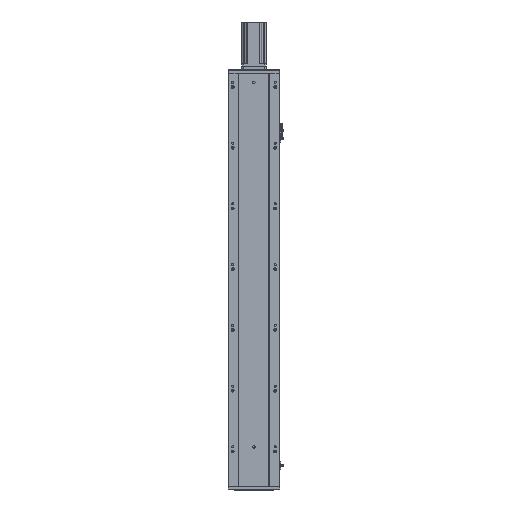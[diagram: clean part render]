
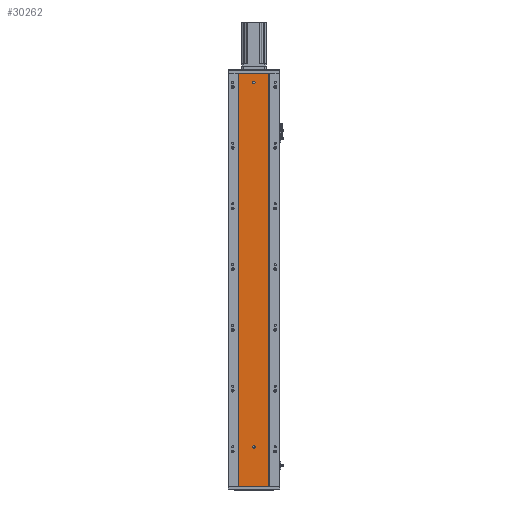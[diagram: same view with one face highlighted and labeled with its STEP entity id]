
A CAD part, front view. The second image highlights one B-rep face of the part: STEP entity #30262.
In plain terms, the highlighted planar face has unit normal (0, -1, 0).
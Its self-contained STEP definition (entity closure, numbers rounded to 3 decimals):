
#1245 = EDGE_CURVE ( 'NONE', #36690, #35395, #17171, .T. ) ;
#1509 = AXIS2_PLACEMENT_3D ( 'NONE', #22015, #16182, #61484 ) ;
#2485 = VECTOR ( 'NONE', #25756, 1000. ) ;
#3011 = FACE_OUTER_BOUND ( 'NONE', #36099, .T. ) ;
#3685 = CARTESIAN_POINT ( 'NONE',  ( 136.47, 79.476, 1334. ) ) ;
#4648 = CARTESIAN_POINT ( 'NONE',  ( 86.97, 79.476, 906.667 ) ) ;
#6419 = DIRECTION ( 'NONE',  ( 0., 1., 0. ) ) ;
#7048 = CARTESIAN_POINT ( 'NONE',  ( 136.47, 79.476, 134. ) ) ;
#8525 = CARTESIAN_POINT ( 'NONE',  ( 185.97, 79.476, 1360. ) ) ;
#8959 = DIRECTION ( 'NONE',  ( 0., -1., 0. ) ) ;
#12555 = VERTEX_POINT ( 'NONE', #30598 ) ;
#13682 = CARTESIAN_POINT ( 'NONE',  ( 185.97, 79.476, 1360. ) ) ;
#14575 = AXIS2_PLACEMENT_3D ( 'NONE', #42781, #8959, #43280 ) ;
#16182 = DIRECTION ( 'NONE',  ( 0., -1., 0. ) ) ;
#16901 = CARTESIAN_POINT ( 'NONE',  ( 0., 79.476, 1360. ) ) ;
#17171 = LINE ( 'NONE', #58533, #46825 ) ;
#19411 = AXIS2_PLACEMENT_3D ( 'NONE', #16901, #6419, #55907 ) ;
#19426 = ORIENTED_EDGE ( 'NONE', *, *, #55000, .F. ) ;
#20397 = VERTEX_POINT ( 'NONE', #63489 ) ;
#20857 = DIRECTION ( 'NONE',  ( 0., 0., -1. ) ) ;
#21030 = CIRCLE ( 'NONE', #55807, 4. ) ;
#21287 = FACE_BOUND ( 'NONE', #52429, .T. ) ;
#22015 = CARTESIAN_POINT ( 'NONE',  ( 136.47, 79.476, 1330. ) ) ;
#23209 = PLANE ( 'NONE',  #19411 ) ;
#24088 = CARTESIAN_POINT ( 'NONE',  ( 185.97, 79.476, 0. ) ) ;
#24570 = CARTESIAN_POINT ( 'NONE',  ( 185.97, 79.476, 906.667 ) ) ;
#25116 = DIRECTION ( 'NONE',  ( 1., 0., 0. ) ) ;
#25756 = DIRECTION ( 'NONE',  ( 1., 0., 0. ) ) ;
#26220 = ORIENTED_EDGE ( 'NONE', *, *, #55463, .F. ) ;
#26437 = CARTESIAN_POINT ( 'NONE',  ( 136.47, 79.476, 1326. ) ) ;
#29228 = EDGE_CURVE ( 'NONE', #35395, #12555, #29620, .T. ) ;
#29620 = B_SPLINE_CURVE_WITH_KNOTS ( 'NONE', 3,
 ( #8525, #24570, #69497, #24088 ),
 .UNSPECIFIED., .F., .F.,
 ( 4, 4 ),
 ( 0., 1. ),
 .UNSPECIFIED. ) ;
#30262 = ADVANCED_FACE ( 'NONE', ( #52707, #21287, #3011 ), #23209, .F. ) ;
#30598 = CARTESIAN_POINT ( 'NONE',  ( 185.97, 79.476, 0. ) ) ;
#31030 = DIRECTION ( 'NONE',  ( 0., 0., -1. ) ) ;
#32099 = CARTESIAN_POINT ( 'NONE',  ( 0., 79.476, 0. ) ) ;
#35148 = ORIENTED_EDGE ( 'NONE', *, *, #40235, .T. ) ;
#35395 = VERTEX_POINT ( 'NONE', #13682 ) ;
#35593 = LINE ( 'NONE', #32099, #2485 ) ;
#36099 = EDGE_LOOP ( 'NONE', ( #35148, #59783, #64504, #53877 ) ) ;
#36690 = VERTEX_POINT ( 'NONE', #68663 ) ;
#37333 = EDGE_LOOP ( 'NONE', ( #26220, #47734 ) ) ;
#37908 = EDGE_CURVE ( 'NONE', #62245, #65717, #65032, .T. ) ;
#38752 = VERTEX_POINT ( 'NONE', #46600 ) ;
#40235 = EDGE_CURVE ( 'NONE', #38752, #12555, #35593, .T. ) ;
#42781 = CARTESIAN_POINT ( 'NONE',  ( 136.47, 79.476, 1330. ) ) ;
#43280 = DIRECTION ( 'NONE',  ( 0., 0., -1. ) ) ;
#46600 = CARTESIAN_POINT ( 'NONE',  ( 86.97, 79.476, 0. ) ) ;
#46821 = VERTEX_POINT ( 'NONE', #7048 ) ;
#46825 = VECTOR ( 'NONE', #25116, 1000. ) ;
#46947 = ORIENTED_EDGE ( 'NONE', *, *, #58376, .F. ) ;
#47693 = AXIS2_PLACEMENT_3D ( 'NONE', #54012, #54269, #20857 ) ;
#47734 = ORIENTED_EDGE ( 'NONE', *, *, #37908, .F. ) ;
#52429 = EDGE_LOOP ( 'NONE', ( #46947, #19426 ) ) ;
#52707 = FACE_BOUND ( 'NONE', #37333, .T. ) ;
#53877 = ORIENTED_EDGE ( 'NONE', *, *, #57237, .T. ) ;
#54012 = CARTESIAN_POINT ( 'NONE',  ( 136.47, 79.476, 130. ) ) ;
#54269 = DIRECTION ( 'NONE',  ( 0., -1., 0. ) ) ;
#54337 = CARTESIAN_POINT ( 'NONE',  ( 86.97, 79.476, 1360. ) ) ;
#55000 = EDGE_CURVE ( 'NONE', #46821, #20397, #59784, .T. ) ;
#55463 = EDGE_CURVE ( 'NONE', #65717, #62245, #60542, .T. ) ;
#55807 = AXIS2_PLACEMENT_3D ( 'NONE', #70539, #64423, #31030 ) ;
#55907 = DIRECTION ( 'NONE',  ( 0., 0., 1. ) ) ;
#57237 = EDGE_CURVE ( 'NONE', #36690, #38752, #60362, .T. ) ;
#58376 = EDGE_CURVE ( 'NONE', #20397, #46821, #21030, .T. ) ;
#58533 = CARTESIAN_POINT ( 'NONE',  ( 0., 79.476, 1360. ) ) ;
#59783 = ORIENTED_EDGE ( 'NONE', *, *, #29228, .F. ) ;
#59784 = CIRCLE ( 'NONE', #47693, 4. ) ;
#60362 = B_SPLINE_CURVE_WITH_KNOTS ( 'NONE', 3,
 ( #54337, #4648, #64840, #65320 ),
 .UNSPECIFIED., .F., .F.,
 ( 4, 4 ),
 ( 0., 1. ),
 .UNSPECIFIED. ) ;
#60542 = CIRCLE ( 'NONE', #1509, 4. ) ;
#61484 = DIRECTION ( 'NONE',  ( 0., 0., -1. ) ) ;
#62245 = VERTEX_POINT ( 'NONE', #3685 ) ;
#63489 = CARTESIAN_POINT ( 'NONE',  ( 136.47, 79.476, 126. ) ) ;
#64423 = DIRECTION ( 'NONE',  ( 0., -1., 0. ) ) ;
#64504 = ORIENTED_EDGE ( 'NONE', *, *, #1245, .F. ) ;
#64840 = CARTESIAN_POINT ( 'NONE',  ( 86.97, 79.476, 453.333 ) ) ;
#65032 = CIRCLE ( 'NONE', #14575, 4. ) ;
#65320 = CARTESIAN_POINT ( 'NONE',  ( 86.97, 79.476, 0. ) ) ;
#65717 = VERTEX_POINT ( 'NONE', #26437 ) ;
#68663 = CARTESIAN_POINT ( 'NONE',  ( 86.97, 79.476, 1360. ) ) ;
#69497 = CARTESIAN_POINT ( 'NONE',  ( 185.97, 79.476, 453.333 ) ) ;
#70539 = CARTESIAN_POINT ( 'NONE',  ( 136.47, 79.476, 130. ) ) ;
